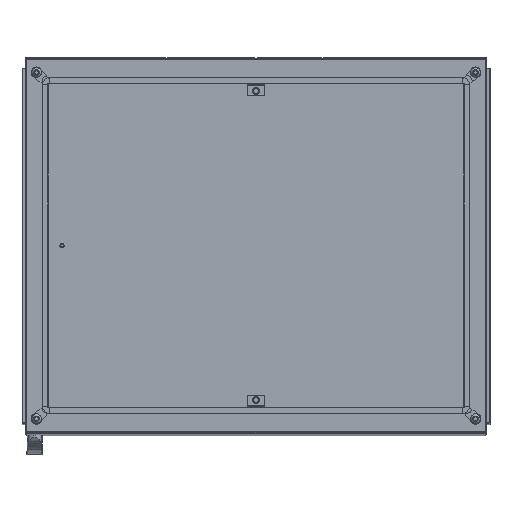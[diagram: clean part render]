
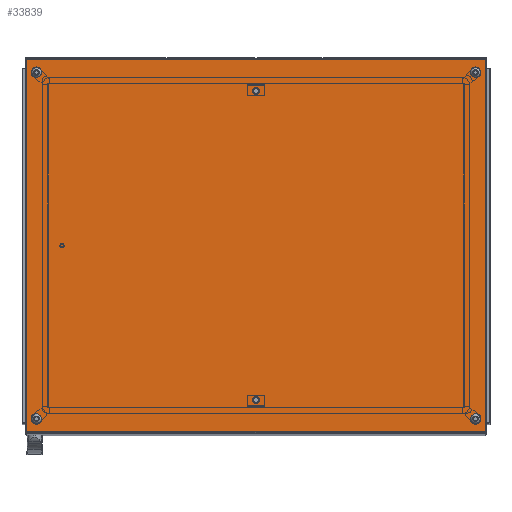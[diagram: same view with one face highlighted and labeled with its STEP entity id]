
A CAD part, top view. The second image highlights one B-rep face of the part: STEP entity #33839.
In plain terms, the highlighted planar face has unit normal (0, 0, 1).
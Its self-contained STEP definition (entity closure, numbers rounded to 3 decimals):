
#1604=CIRCLE('',#36259,7.321);
#1605=CIRCLE('',#36260,7.321);
#1606=CIRCLE('',#36261,6.);
#1607=CIRCLE('',#36262,6.);
#1608=CIRCLE('',#36263,6.);
#1609=CIRCLE('',#36264,6.);
#5809=ORIENTED_EDGE('',*,*,#14135,.F.);
#5810=ORIENTED_EDGE('',*,*,#14136,.F.);
#5811=ORIENTED_EDGE('',*,*,#14137,.F.);
#5812=ORIENTED_EDGE('',*,*,#14138,.F.);
#5813=ORIENTED_EDGE('',*,*,#14139,.F.);
#5814=ORIENTED_EDGE('',*,*,#14140,.F.);
#5815=ORIENTED_EDGE('',*,*,#14124,.T.);
#5816=ORIENTED_EDGE('',*,*,#14132,.T.);
#5817=ORIENTED_EDGE('',*,*,#14095,.F.);
#5818=ORIENTED_EDGE('',*,*,#14141,.F.);
#14095=EDGE_CURVE('',#18493,#18494,#21880,.T.);
#14124=EDGE_CURVE('',#18515,#18514,#21886,.T.);
#14132=EDGE_CURVE('',#18514,#18494,#21891,.T.);
#14135=EDGE_CURVE('',#18516,#18516,#1604,.T.);
#14136=EDGE_CURVE('',#18517,#18517,#1605,.T.);
#14137=EDGE_CURVE('',#18518,#18518,#1606,.T.);
#14138=EDGE_CURVE('',#18519,#18519,#1607,.T.);
#14139=EDGE_CURVE('',#18520,#18520,#1608,.T.);
#14140=EDGE_CURVE('',#18521,#18521,#1609,.T.);
#14141=EDGE_CURVE('',#18515,#18493,#21894,.T.);
#18493=VERTEX_POINT('',#52447);
#18494=VERTEX_POINT('',#52449);
#18514=VERTEX_POINT('',#52523);
#18515=VERTEX_POINT('',#52525);
#18516=VERTEX_POINT('',#52542);
#18517=VERTEX_POINT('',#52544);
#18518=VERTEX_POINT('',#52546);
#18519=VERTEX_POINT('',#52548);
#18520=VERTEX_POINT('',#52550);
#18521=VERTEX_POINT('',#52552);
#21880=LINE('',#52448,#24793);
#21886=LINE('',#52524,#24799);
#21891=LINE('',#52536,#24804);
#21894=LINE('',#52553,#24807);
#24793=VECTOR('',#41907,1000.);
#24799=VECTOR('',#41961,1000.);
#24804=VECTOR('',#41978,1000.);
#24807=VECTOR('',#41997,1000.);
#27376=EDGE_LOOP('',(#5809));
#27377=EDGE_LOOP('',(#5810));
#27378=EDGE_LOOP('',(#5811));
#27379=EDGE_LOOP('',(#5812));
#27380=EDGE_LOOP('',(#5813));
#27381=EDGE_LOOP('',(#5814));
#27382=EDGE_LOOP('',(#5815,#5816,#5817,#5818));
#30230=FACE_BOUND('',#27376,.T.);
#30231=FACE_BOUND('',#27377,.T.);
#30232=FACE_BOUND('',#27378,.T.);
#30233=FACE_BOUND('',#27379,.T.);
#30234=FACE_BOUND('',#27380,.T.);
#30235=FACE_BOUND('',#27381,.T.);
#30236=FACE_BOUND('',#27382,.T.);
#32737=PLANE('',#36258);
#33839=ADVANCED_FACE('',(#30230,#30231,#30232,#30233,#30234,#30235,#30236),
#32737,.T.);
#36258=AXIS2_PLACEMENT_3D('',#52540,#41983,#41984);
#36259=AXIS2_PLACEMENT_3D('',#52541,#41985,#41986);
#36260=AXIS2_PLACEMENT_3D('',#52543,#41987,#41988);
#36261=AXIS2_PLACEMENT_3D('',#52545,#41989,#41990);
#36262=AXIS2_PLACEMENT_3D('',#52547,#41991,#41992);
#36263=AXIS2_PLACEMENT_3D('',#52549,#41993,#41994);
#36264=AXIS2_PLACEMENT_3D('',#52551,#41995,#41996);
#41907=DIRECTION('',(-1.,0.,0.));
#41961=DIRECTION('',(-1.,0.,0.));
#41978=DIRECTION('',(0.,-1.,0.));
#41983=DIRECTION('',(0.,0.,1.));
#41984=DIRECTION('',(1.,0.,0.));
#41985=DIRECTION('',(0.,0.,1.));
#41986=DIRECTION('',(1.,0.,0.));
#41987=DIRECTION('',(0.,0.,1.));
#41988=DIRECTION('',(1.,0.,0.));
#41989=DIRECTION('',(0.,0.,1.));
#41990=DIRECTION('',(1.,0.,0.));
#41991=DIRECTION('',(0.,0.,1.));
#41992=DIRECTION('',(1.,0.,0.));
#41993=DIRECTION('',(0.,0.,1.));
#41994=DIRECTION('',(1.,0.,0.));
#41995=DIRECTION('',(0.,0.,1.));
#41996=DIRECTION('',(1.,0.,0.));
#41997=DIRECTION('',(0.,-1.,0.));
#52447=CARTESIAN_POINT('',(496.5,-402.5,20.));
#52448=CARTESIAN_POINT('',(500.,-402.5,20.));
#52449=CARTESIAN_POINT('',(-496.5,-402.5,20.));
#52523=CARTESIAN_POINT('',(-496.5,402.5,20.));
#52524=CARTESIAN_POINT('',(500.,402.5,20.));
#52525=CARTESIAN_POINT('',(496.5,402.5,20.));
#52536=CARTESIAN_POINT('',(-496.5,405.5,20.));
#52540=CARTESIAN_POINT('',(-496.5,-402.5,20.));
#52541=CARTESIAN_POINT('',(0.,-334.,20.));
#52542=CARTESIAN_POINT('',(7.321,-334.,20.));
#52543=CARTESIAN_POINT('',(0.,334.,20.));
#52544=CARTESIAN_POINT('',(7.321,334.,20.));
#52545=CARTESIAN_POINT('',(474.5,-374.5,20.));
#52546=CARTESIAN_POINT('',(480.5,-374.5,20.));
#52547=CARTESIAN_POINT('',(-474.5,374.5,20.));
#52548=CARTESIAN_POINT('',(-468.5,374.5,20.));
#52549=CARTESIAN_POINT('',(474.5,374.5,20.));
#52550=CARTESIAN_POINT('',(480.5,374.5,20.));
#52551=CARTESIAN_POINT('',(-474.5,-374.5,20.));
#52552=CARTESIAN_POINT('',(-468.5,-374.5,20.));
#52553=CARTESIAN_POINT('',(496.5,405.5,20.));
